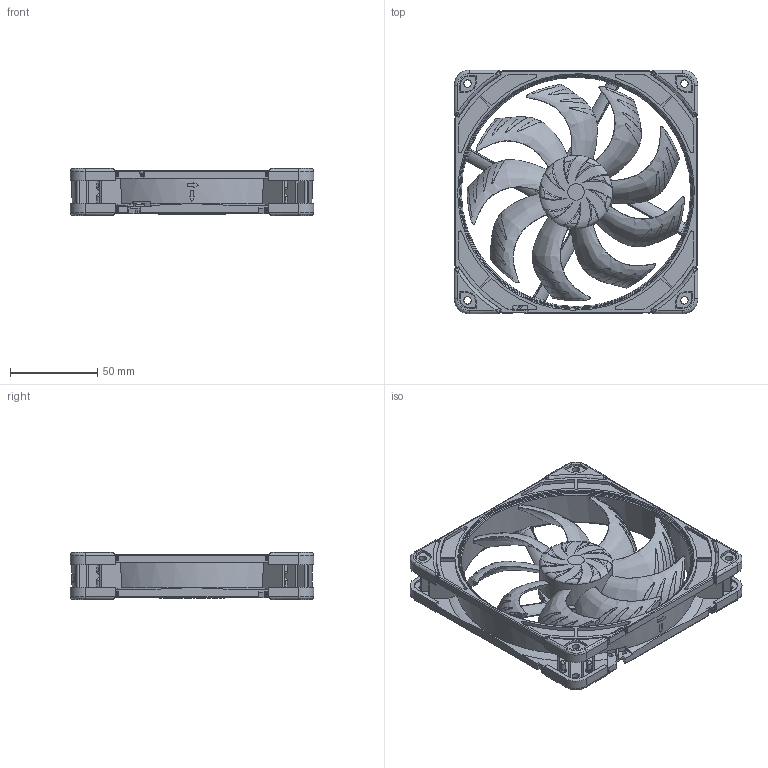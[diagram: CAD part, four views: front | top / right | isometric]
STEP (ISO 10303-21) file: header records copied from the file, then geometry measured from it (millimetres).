
FILE_DESCRIPTION(/* description */ ('140mm Desk Fan'),/* implementation_level */ '2;1');
FILE_NAME(/* name */ 'NF-A14x25_G2_Public-CAD',/* time_stamp */ '2026-04-09T17:30:52+02:00',/* author */ ('Andreas'),/* organization */ ('Rascom'),/* preprocessor_version */ 'ST-DEVELOPER v18.102',/* originating_system */ 'Solid Edge',/* authorisation */ 'Unknown');
FILE_SCHEMA (('AUTOMOTIVE_DESIGN {1 0 10303 214 3 1 1}'));
Length unit declared in the file: millimetre
Products named in the file (5): NF-A14x25_G2_Public-CAD; NF-A14x25_G2_Frame-Public; NF-A14x25_G2_Impeller-Public; NA-AVP1; Fan-Label-D38mm-G2
Assembly tree (11 placements, depth 2):
  NF-A14x25_G2_Public-CAD
    NF-A14x25_G2_Frame-Public
    NF-A14x25_G2_Impeller-Public
    NA-AVP1  x8
    Fan-Label-D38mm-G2
Bounding box: 139.8 x 139.8 x 27 mm (x, y, z)
Volume: 135467.3 mm3; surface area: 100439.6 mm2
Topology: 11 solids, 11 shells, 2234 faces, 6139 edges, 4008 vertices
Faces by surface type: plane 898, cylinder 723, bspline 224, torus 183, cone 162, sphere 44
Full cylindrical faces by diameter (mm): 3 x16, 4.3 x8, 38 x2, 41.858 x1, 131.8 x1
Entity records: 75149 total; most frequent: CARTESIAN_POINT 38988, ORIENTED_EDGE 8692, DIRECTION 4736, EDGE_CURVE 4346, VERTEX_POINT 2879, B_SPLINE_CURVE_WITH_KNOTS 2712, EDGE_LOOP 1839, FACE_BOUND 1839
